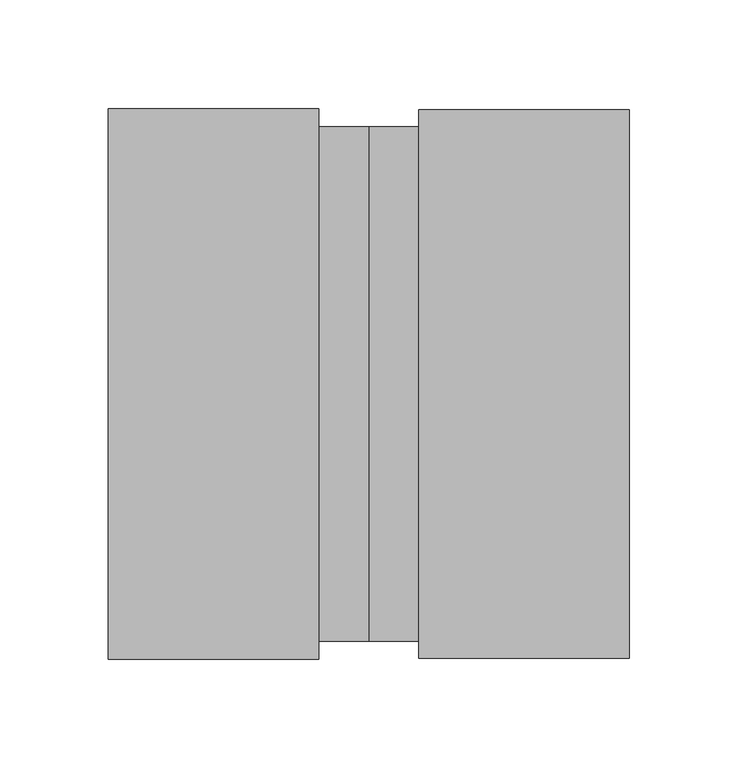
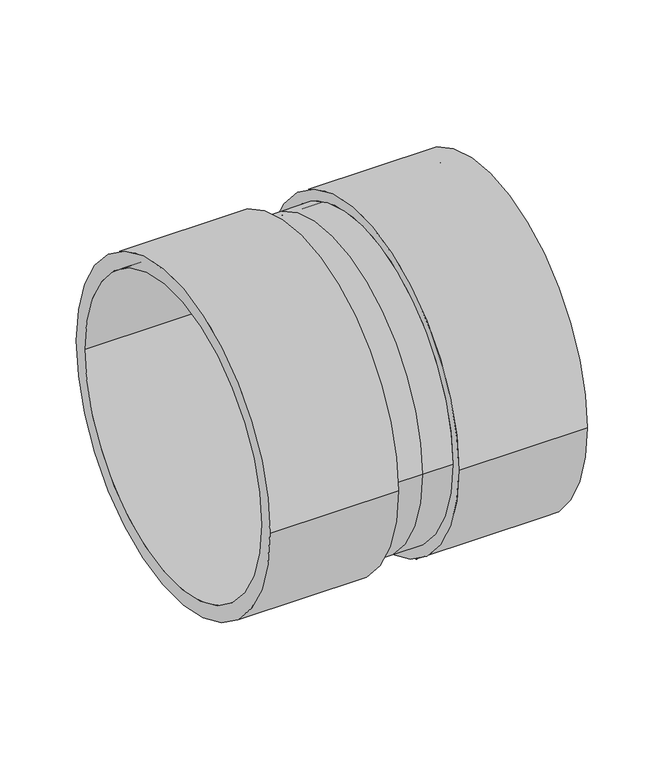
"""IFC4 building model written with IfcOpenShell, lengths in millimetres: pipe fitting geometry, Pipelife - Pragma +ID - Łącznik kanałowy : Pipelife - Pragma +ID - Łącznik kanałowy."""

import ifcopenshell
import ifcopenshell.guid

model = None  # the IFC model being written
_history = None  # IfcOwnerHistory: only IFC2X3 demands one
_inside = {}  # id of a spatial element -> (the spatial element, [elements in it])
_under = {}  # id of a project, library or spatial element -> (it, [spatial elements below it])
_declared = {}  # id of a project -> (the project, [libraries it declares])
_typed = {}  # id of a type object -> (the type object, [elements of that type])
_made_of = {}  # id of a material, layer set ... -> (it, [elements and type objects made of it])


def new_model(schema):
    """Start an empty IFC model of exactly this schema.

    Asked for "IFC4X3", IfcOpenShell would pick the latest addendum, in which some entities
    have other attributes; the version numbers below select the first issue.
    IFC2X3 requires an IfcOwnerHistory on every rooted entity: one is made here for all.
    """
    global model, _history
    if schema == "IFC4X3":
        model = ifcopenshell.file(schema_version=(4, 3, 0, 0))
    else:
        model = ifcopenshell.file(schema=schema)
    _inside.clear()
    _under.clear()
    _declared.clear()
    _typed.clear()
    _made_of.clear()
    _history = None
    if model.schema == "IFC2X3":
        org = make("IfcOrganization", Name="unknown")
        user = make(
            "IfcPersonAndOrganization",
            ThePerson=make("IfcPerson", FamilyName="unknown"),
            TheOrganization=org,
        )
        app = make(
            "IfcApplication",
            ApplicationDeveloper=org,
            Version="unknown",
            ApplicationFullName="unknown",
            ApplicationIdentifier="unknown",
        )
        _history = make(
            "IfcOwnerHistory",
            OwningUser=user,
            OwningApplication=app,
            ChangeAction="ADDED",
            CreationDate=0,
        )
    return model


def make(cls, **values):
    """One entity of the class cls with the attributes given. An attribute that is None is left unset."""
    return model.create_entity(
        cls, **{name: value for name, value in values.items() if value is not None}
    )


def rooted(cls, **values):
    """An entity with a GlobalId (a new one), such as an element, a storey or a relation."""
    return make(cls, GlobalId=ifcopenshell.guid.new(), OwnerHistory=_history, **values)


def si_unit(unit_type, name, prefix=None):
    """IfcSIUnit, for example si_unit("LENGTHUNIT", "METRE", prefix="MILLI")."""
    return make("IfcSIUnit", UnitType=unit_type, Prefix=prefix, Name=name)


def assignment(units):
    """IfcUnitAssignment: the units of a project."""
    return None if units is None else make("IfcUnitAssignment", Units=units)


def point(xyz):
    """IfcCartesianPoint."""
    return None if xyz is None else make("IfcCartesianPoint", Coordinates=xyz)


def direction(xyz):
    """IfcDirection."""
    return None if xyz is None else make("IfcDirection", DirectionRatios=xyz)


def frame(location, z_axis=None, x_axis=None):
    """IfcAxis2Placement3D, a coordinate frame: its origin and axes. An axis left out is left unset."""
    return make(
        "IfcAxis2Placement3D",
        Location=point(location),
        Axis=direction(z_axis),
        RefDirection=direction(x_axis),
    )


def origin():
    """The frame at (0, 0, 0) with its axes left unset."""
    return frame((0.0, 0.0, 0.0))


def place(relative_to, where):
    """IfcLocalPlacement: puts the frame where relative to a parent placement (None: the world)."""
    return make(
        "IfcLocalPlacement", PlacementRelTo=relative_to, RelativePlacement=where
    )


def context(
    kind, dimensions, precision=None, world=None, true_north=None, identifier=None
):
    """IfcGeometricRepresentationContext, for example the 3D "Model" context."""
    return make(
        "IfcGeometricRepresentationContext",
        ContextIdentifier=identifier,
        ContextType=kind,
        CoordinateSpaceDimension=dimensions,
        Precision=precision,
        WorldCoordinateSystem=world,
        TrueNorth=true_north,
    )


def project(units=None, contexts=None):
    """IfcProject with its units and contexts."""
    return rooted(
        "IfcProject",
        Name="project",
        RepresentationContexts=contexts,
        UnitsInContext=assignment(units),
    )


def spatial(cls, under=None, at=None, **own):
    """A site, building, storey or space (cls), placed at a placement, below another one or the project."""
    s = rooted(cls, ObjectPlacement=at, **own)
    if under is not None:
        _under.setdefault(under.id(), (under, []))[1].append(s)
    return s


def polyline(points):
    """IfcPolyline through the points."""
    return make("IfcPolyline", Points=[point(p) for p in points])


def circle_curve(where, radius):
    """IfcCircle in the frame where."""
    return make("IfcCircle", Position=where, Radius=radius)


def shape(context_of_items, identifier, shape_type, items):
    """IfcShapeRepresentation: the items that make up one representation, for example the "Body"."""
    return make(
        "IfcShapeRepresentation",
        ContextOfItems=context_of_items,
        RepresentationIdentifier=identifier,
        RepresentationType=shape_type,
        Items=items,
    )


def source(mapping_origin, context_of_items, identifier, shape_type, items):
    """IfcRepresentationMap: a shape defined once, which mapped items show again and again."""
    return make(
        "IfcRepresentationMap",
        MappingOrigin=mapping_origin,
        MappedRepresentation=shape(context_of_items, identifier, shape_type, items),
    )


def transform(
    local_origin,
    x_axis=None,
    y_axis=None,
    z_axis=None,
    scale=None,
    scale2=None,
    scale3=None,
    uniform=True,
):
    """IfcCartesianTransformationOperator3D, or its non-uniform kind. x_axis, y_axis, z_axis: its Axis1, 2, 3."""
    if uniform:
        return make(
            "IfcCartesianTransformationOperator3D",
            Axis1=direction(x_axis),
            Axis2=direction(y_axis),
            LocalOrigin=point(local_origin),
            Scale=scale,
            Axis3=direction(z_axis),
        )
    return make(
        "IfcCartesianTransformationOperator3DnonUniform",
        Axis1=direction(x_axis),
        Axis2=direction(y_axis),
        LocalOrigin=point(local_origin),
        Scale=scale,
        Axis3=direction(z_axis),
        Scale2=scale2,
        Scale3=scale3,
    )


def mapped(mapping_source, mapping_target):
    """IfcMappedItem: shows the shape of a source again, moved by a transform."""
    return make(
        "IfcMappedItem", MappingSource=mapping_source, MappingTarget=mapping_target
    )


def made_of(thing, what):
    """Note that an element or type object is made of a material, layer set ...; save() writes the relation."""
    if what is not None:
        _made_of.setdefault(what.id(), (what, []))[1].append(thing)
    return thing


def element(
    cls,
    number,
    at=None,
    inside=None,
    cuts=None,
    type_object=None,
    material=None,
    context=None,
    identifier="Body",
    shape_type=None,
    held_by="IfcProductDefinitionShape",
    body=None,
    shapes=None,
    **own,
):
    """One element of the class cls, such as IfcWall. Its Tag is "e" and its number.

    at: its placement. inside: the storey or other place that contains it. cuts: it is an
    opening in that element (IfcRelVoidsElement). A single representation is given by context,
    identifier, shape_type and body (its items); several are given by shapes. held_by: the class
    of the entity that holds the representations. save() writes the other relations.
    """
    e = rooted(cls, Tag="e%d" % number, ObjectPlacement=at, **own)
    if body is not None:
        shapes = [shape(context, identifier, shape_type, body)]
    if shapes is not None:
        e.Representation = make(held_by, Representations=shapes)
    if inside is not None:
        _inside.setdefault(inside.id(), (inside, []))[1].append(e)
    if cuts is not None:
        rooted(
            "IfcRelVoidsElement", RelatingBuildingElement=cuts, RelatedOpeningElement=e
        )
    if type_object is not None:
        _typed.setdefault(type_object.id(), (type_object, []))[1].append(e)
    return made_of(e, material)


def aggregate(whole, parts):
    """IfcRelAggregates: a whole, such as a stair, and the parts it consists of."""
    return rooted("IfcRelAggregates", RelatingObject=whole, RelatedObjects=parts)


def save(model, path):
    """Write the relations noted so far, then the file.

    IfcRelAggregates (storeys below a building ...), IfcRelContainedInSpatialStructure (elements
    in a storey), IfcRelDefinesByType, IfcRelAssociatesMaterial and IfcRelDeclares: one each for
    every whole, place, type object, material and project.
    """
    for whole, parts in _under.values():
        aggregate(whole, parts)
    for where, things in _inside.values():
        rooted(
            "IfcRelContainedInSpatialStructure",
            RelatedElements=things,
            RelatingStructure=where,
        )
    for kind, things in _typed.values():
        rooted("IfcRelDefinesByType", RelatedObjects=things, RelatingType=kind)
    for what, things in _made_of.values():
        rooted("IfcRelAssociatesMaterial", RelatedObjects=things, RelatingMaterial=what)
    for by, libraries in _declared.values():
        rooted("IfcRelDeclares", RelatingContext=by, RelatedDefinitions=libraries)
    model.write(path)


def plane_surface(at):
    """IfcPlane: the flat surface through the origin of the frame at, square to its z axis."""
    return make("IfcPlane", Position=at)


def cylinder_surface(at, radius):
    """IfcCylindricalSurface: all points at the distance radius from the z axis of the frame at."""
    return make("IfcCylindricalSurface", Position=at, Radius=radius)


def revolved_surface(curve, axis_point, axis_direction):
    """IfcSurfaceOfRevolution: the curve turned about the line through axis_point along axis_direction."""
    return make(
        "IfcSurfaceOfRevolution",
        SweptCurve=make("IfcArbitraryOpenProfileDef", ProfileType="CURVE", Curve=curve),
        AxisPosition=make("IfcAxis1Placement", Location=point(axis_point), Axis=direction(axis_direction)),
    )


def advanced_brep(points, edges, surfaces, faces):
    """IfcAdvancedBrep: a solid bounded by faces that lie on surfaces and meet in shared edges.

    An edge is (start, end): straight between two places in points (the first is 0);
    or (start, end, curve); or (start, end, curve, False) where it runs against its curve.
    A face is (place in surfaces, loops), or (place, loops, False) where it looks against
    its surface's normal. A loop lists edges by number (the first is 1), with a minus sign
    where the edge is run from its end to its start. The first loop is the outer one.
    """
    corners = [point(p) for p in points]
    vertices = [make("IfcVertexPoint", VertexGeometry=c) for c in corners]
    made = []
    for start, end, *more in edges:
        made.append(
            make(
                "IfcEdgeCurve",
                EdgeStart=vertices[start],
                EdgeEnd=vertices[end],
                EdgeGeometry=more[0] if more else make("IfcPolyline", Points=[corners[start], corners[end]]),
                SameSense=more[1] if len(more) > 1 else True,
            )
        )
    hull = []
    for where, loops, *sense in faces:
        bounds = []
        for j, loop in enumerate(loops):
            ring = [make("IfcOrientedEdge", EdgeElement=made[abs(k) - 1], Orientation=k > 0) for k in loop]
            bounds.append(
                make(
                    "IfcFaceOuterBound" if j == 0 else "IfcFaceBound",
                    Bound=make("IfcEdgeLoop", EdgeList=ring),
                    Orientation=True,
                )
            )
        hull.append(make("IfcAdvancedFace", Bounds=bounds, FaceSurface=surfaces[where], SameSense=sense[0] if sense else True))
    return make("IfcAdvancedBrep", Outer=make("IfcClosedShell", CfsFaces=hull))


def pipe_fitting_bfb84d33(model_context):
    return source(origin(), model_context, "Body", "AdvancedBrep", [
        advanced_brep(
        [(-120.0, -127.0, 0.0), (-120.0, 127.0, 0.0), (-120.0, 115.5, 0.0), (-120.0, -115.5, 0.0), (-23.0, -127.0, 0.0), (-23.0, 127.0, 0.0), (-23.0, -118.5, 0.0), (-23.0, 118.5, 0.0), (0.0, 115.5, 0.0), (0.0, -115.5, 0.0), (0.0, -118.5, 0.0), (0.0, 118.5, 0.0), (120.0, -126.5, 0.0), (120.0, 126.5, 0.0), (120.0, -115.5, 0.0), (120.0, 115.5, 0.0), (23.0, -118.5, 0.0), (23.0, 118.5, 0.0), (23.0, -126.5, 0.0), (23.0, 126.5, 0.0)],
        [
            (0, 1, circle_curve(frame((-120.0, 0.0, 0.0), z_axis=(-1.0, 0.0, 0.0), x_axis=(0.0, 1.0, 0.0)), 127.0)),
            (1, 0, circle_curve(frame((-120.0, 0.0, 0.0), z_axis=(-1.0, 0.0, 0.0), x_axis=(0.0, 1.0, 0.0)), 127.0)),
            (2, 3, circle_curve(frame((-120.0, 0.0, 0.0), z_axis=(1.0, 0.0, 0.0), x_axis=(0.0, 1.0, 0.0)), 115.5)),
            (3, 2, circle_curve(frame((-120.0, 0.0, 0.0), z_axis=(1.0, 0.0, 0.0), x_axis=(0.0, 1.0, 0.0)), 115.5)),
            (4, 5, circle_curve(frame((-23.0, 0.0, 0.0), z_axis=(1.0, 0.0, 0.0), x_axis=(0.0, 1.0, 0.0)), 127.0)),
            (5, 4, circle_curve(frame((-23.0, 0.0, 0.0), z_axis=(1.0, 0.0, 0.0), x_axis=(0.0, 1.0, 0.0)), 127.0)),
            (6, 7, circle_curve(frame((-23.0, 0.0, 0.0), z_axis=(-1.0, 0.0, 0.0), x_axis=(0.0, 1.0, 0.0)), 118.5)),
            (7, 6, circle_curve(frame((-23.0, 0.0, 0.0), z_axis=(-1.0, 0.0, 0.0), x_axis=(0.0, 1.0, 0.0)), 118.5)),
            (0, 4),
            (5, 1),
            (2, 8),
            (8, 9, circle_curve(frame((0.0, 0.0, 0.0), z_axis=(1.0, 0.0, 0.0), x_axis=(0.0, 1.0, 0.0)), 115.5)),
            (9, 3),
            (9, 8, circle_curve(frame((0.0, 0.0, 0.0), z_axis=(1.0, 0.0, 0.0), x_axis=(0.0, 1.0, 0.0)), 115.5)),
            (6, 10),
            (10, 11, circle_curve(frame((0.0, 0.0, 0.0), z_axis=(-1.0, 0.0, 0.0), x_axis=(0.0, 1.0, 0.0)), 118.5)),
            (11, 7),
            (11, 10, circle_curve(frame((0.0, 0.0, 0.0), z_axis=(-1.0, 0.0, 0.0), x_axis=(0.0, 1.0, 0.0)), 118.5)),
            (12, 13, circle_curve(frame((120.0, 0.0, 0.0), z_axis=(1.0, 0.0, 0.0), x_axis=(0.0, 1.0, 0.0)), 126.5)),
            (13, 12, circle_curve(frame((120.0, 0.0, 0.0), z_axis=(1.0, 0.0, 0.0), x_axis=(0.0, 1.0, 0.0)), 126.5)),
            (14, 15, circle_curve(frame((120.0, 0.0, 0.0), z_axis=(-1.0, 0.0, 0.0), x_axis=(0.0, 1.0, 0.0)), 115.5)),
            (15, 14, circle_curve(frame((120.0, 0.0, 0.0), z_axis=(-1.0, 0.0, 0.0), x_axis=(0.0, 1.0, 0.0)), 115.5)),
            (10, 16),
            (16, 17, circle_curve(frame((23.0, 0.0, 0.0), z_axis=(-1.0, 0.0, 0.0), x_axis=(0.0, 1.0, 0.0)), 118.5)),
            (17, 11),
            (17, 16, circle_curve(frame((23.0, 0.0, 0.0), z_axis=(-1.0, 0.0, 0.0), x_axis=(0.0, 1.0, 0.0)), 118.5)),
            (18, 19, circle_curve(frame((23.0, 0.0, 0.0), z_axis=(-1.0, 0.0, 0.0), x_axis=(0.0, 1.0, 0.0)), 126.5)),
            (19, 18, circle_curve(frame((23.0, 0.0, 0.0), z_axis=(-1.0, 0.0, 0.0), x_axis=(0.0, 1.0, 0.0)), 126.5)),
            (18, 12),
            (13, 19),
            (8, 15),
            (14, 9),
        ],
        [
            plane_surface(frame((-120.0, 0.0, 0.0), z_axis=(-1.0, 0.0, 0.0), x_axis=(0.0, 0.0, 1.0))),
            plane_surface(frame((-23.0, 0.0, 0.0), z_axis=(1.0, 0.0, 0.0), x_axis=(0.0, 0.0, 1.0))),
            cylinder_surface(frame((-120.0, 0.0, 0.0), z_axis=(-1.0, 0.0, 0.0), x_axis=(0.0, 1.0, 0.0)), 127.0),
            revolved_surface(polyline([(-120.0, 115.5, 0.0), (0.0, 115.5, 0.0)]), (-120.0, 0.0, 0.0), (-1.0, 0.0, 0.0)),
            cylinder_surface(frame((-120.0, 0.0, 0.0), z_axis=(-1.0, 0.0, 0.0), x_axis=(0.0, 1.0, 0.0)), 118.5),
            plane_surface(frame((120.0, 0.0, 0.0), z_axis=(1.0, 0.0, 0.0), x_axis=(0.0, 0.0, 1.0))),
            cylinder_surface(frame((0.0, 0.0, 0.0), z_axis=(-1.0, 0.0, 0.0), x_axis=(0.0, 1.0, 0.0)), 118.5),
            plane_surface(frame((23.0, 0.0, 0.0), z_axis=(-1.0, 0.0, 0.0), x_axis=(0.0, 0.0, 1.0))),
            cylinder_surface(frame((23.0, 0.0, 0.0), z_axis=(-1.0, 0.0, 0.0), x_axis=(0.0, 1.0, 0.0)), 126.5),
            revolved_surface(polyline([(0.0, 115.5, 0.0), (120.0, 115.5, 0.0)]), (0.0, 0.0, 0.0), (-1.0, 0.0, 0.0)),
        ],
        [
            (0, [[1, 2], [3, 4]]),
            (1, [[5, 6], [7, 8]]),
            (2, [[-1, 9, -6, 10]]),
            (2, [[-2, -10, -5, -9]]),
            (3, [[11, 12, 13, -3]]),
            (3, [[-11, -4, -13, 14]]),
            (4, [[15, 16, 17, -7]]),
            (4, [[-15, -8, -17, 18]]),
            (5, [[19, 20], [21, 22]]),
            (6, [[23, 24, 25, -16]]),
            (6, [[-23, -18, -25, 26]]),
            (7, [[27, 28], [-24, -26]]),
            (8, [[-27, 29, -20, 30]]),
            (8, [[-28, -30, -19, -29]]),
            (9, [[31, -21, 32, -12]]),
            (9, [[-31, -14, -32, -22]]),
        ],
    ),
    ])


if __name__ == "__main__":
    model = new_model("IFC4")
    model_context = context("Model", 3, world=origin())
    ifc_project = project(units=[si_unit("LENGTHUNIT", "METRE", prefix="MILLI")], contexts=[model_context])
    site = spatial("IfcSite", under=ifc_project)
    building = spatial("IfcBuilding", under=site)
    placement = place(None, origin())
    pipe_fitting_shape = pipe_fitting_bfb84d33(model_context)
    element("IfcPipeFitting", 1, ObjectType="Pipelife - Pragma +ID - Łącznik kanałowy : Pipelife - Pragma +ID - Łącznik kanałowy", at=placement, inside=building, context=model_context, shape_type="MappedRepresentation", body=[
        mapped(pipe_fitting_shape, transform((0.0, 0.0, 0.0), x_axis=(1.0, 0.0, 0.0), y_axis=(0.0, 1.0, 0.0), z_axis=(0.0, 0.0, 1.0))),
    ])
    save(model, "model.ifc")
